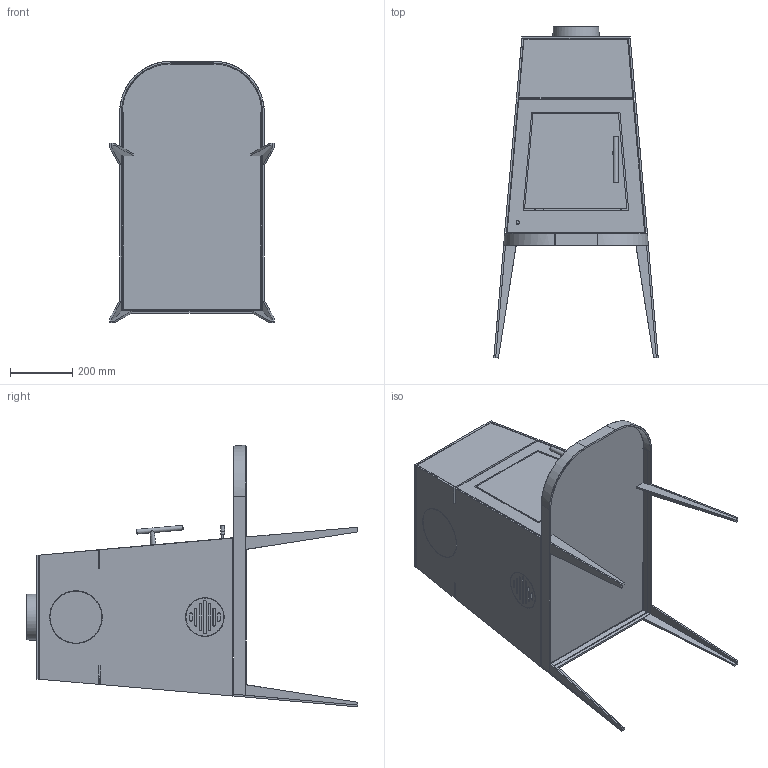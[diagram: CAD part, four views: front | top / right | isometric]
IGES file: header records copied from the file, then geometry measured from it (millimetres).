
Start section: C
Global section: file name: shaker_kurze Bank.igs; native system: By Siemens PLM Incorporated; preprocessor: XPlus GENERIC/IGES 19.0.9; author: Author; organization: Title; date: 20170801.082045; units: millimetre
Bounding box: 529.86 x 1069.65 x 843.97 mm (x, y, z)
Surface area: 5263356.2 mm2 (no closed solid volume)
Topology: 0 solids, 0 shells, 545 faces, 2649 edges, 2644 vertices
Faces by surface type: bspline 545
